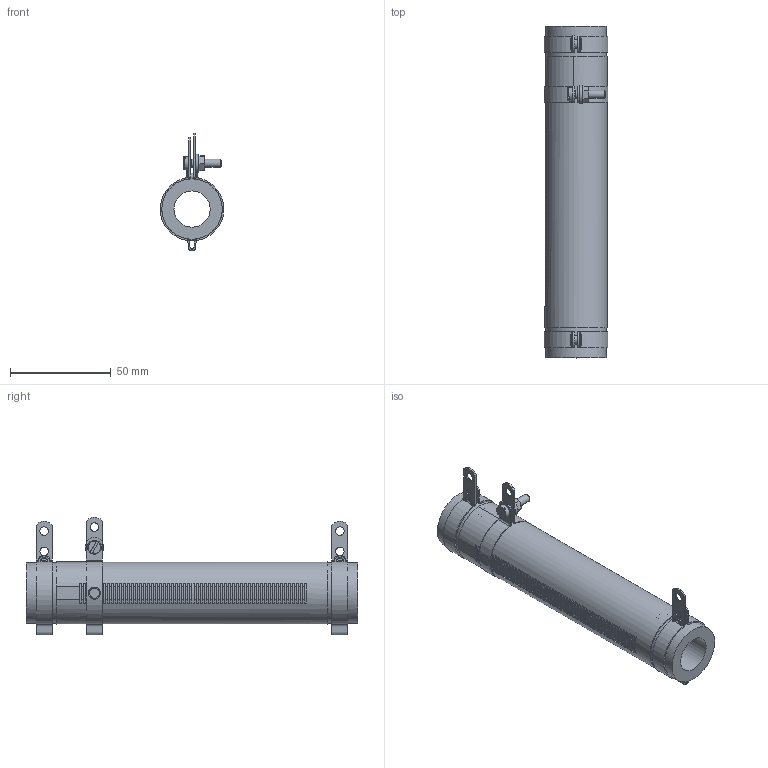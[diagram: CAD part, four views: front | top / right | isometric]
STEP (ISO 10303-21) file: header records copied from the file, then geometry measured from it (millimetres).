
FILE_DESCRIPTION(/* description */ (''),/* implementation_level */ '2;1');
FILE_NAME(/* name */ 'C:\_Vault\Dati\CATALOGO\RC-RS\RCR-RSR TC\RSR TC 160.stp',/* time_stamp */ '2014-03-20T11:30:06+01:00',/* author */ ('stefano'),/* organization */ (''),/* preprocessor_version */ 'ST-DEVELOPER v15.2',/* originating_system */ 'Autodesk Inventor 2014',/* authorisation */ '');
FILE_SCHEMA (('AUTOMOTIVE_DESIGN { 1 0 10303 214 3 1 1 }'));
Length unit declared in the file: millimetre
Products named in the file (1): RSR TC 160
Bounding box: 31.57 x 165 x 58.36 mm (x, y, z)
Volume: 83290.1 mm3; surface area: 29929.9 mm2
Topology: 1 solids, 5 shells, 519 faces, 1493 edges, 988 vertices
Faces by surface type: plane 341, cylinder 140, cone 16, bspline 12, torus 10
Full cylindrical faces by diameter (mm): 0.4 x2, 3.571 x1, 4 x2, 4.2 x9, 4.3 x1, 9 x1, 18 x1, 30 x2, 31 x1
Entity records: 18495 total; most frequent: CARTESIAN_POINT 4351, ORIENTED_EDGE 2902, DIRECTION 2822, EDGE_CURVE 1451, AXIS2_PLACEMENT_3D 1016, VERTEX_POINT 971, LINE 790, VECTOR 790
